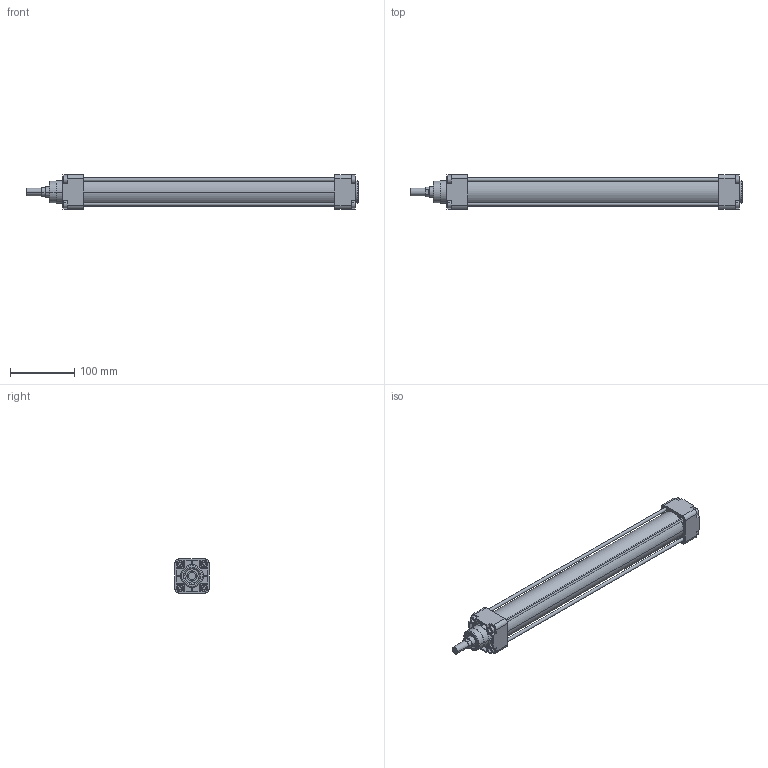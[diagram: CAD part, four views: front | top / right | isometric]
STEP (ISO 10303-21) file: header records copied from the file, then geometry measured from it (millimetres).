
FILE_DESCRIPTION(('CATIA V5 STEP Exchange'),'2;1');
FILE_NAME('D:\stp file for catalog\PNC\40\PNC 40-16-350.stp','2015-10-14T11:58:27+00:00',('none'),('none'),'Version 5-6 Release 2012','CATIA V5 STEP AP203','none');
FILE_SCHEMA(('CONFIG_CONTROL_DESIGN'));
Length unit declared in the file: millimetre
Products named in the file (1): PNC 40-16-350-00
Assembly tree (2 placements, depth 2):
  PNC 40-16-350-00
    #58
    #14829
Bounding box: 516.5 x 53 x 53 mm (x, y, z)
Volume: 438865.1 mm3; surface area: 205568.3 mm2
Topology: 2 solids, 2 shells, 562 faces, 1417 edges, 920 vertices
Faces by surface type: plane 352, cylinder 158, torus 26, cone 18, extrusion 8
Entity records: 15258 total; most frequent: CARTESIAN_POINT 2959, ORIENTED_EDGE 2834, DIRECTION 1897, EDGE_CURVE 1417, VERTEX_POINT 920, VECTOR 877, LINE 869, AXIS2_PLACEMENT_3D 756
